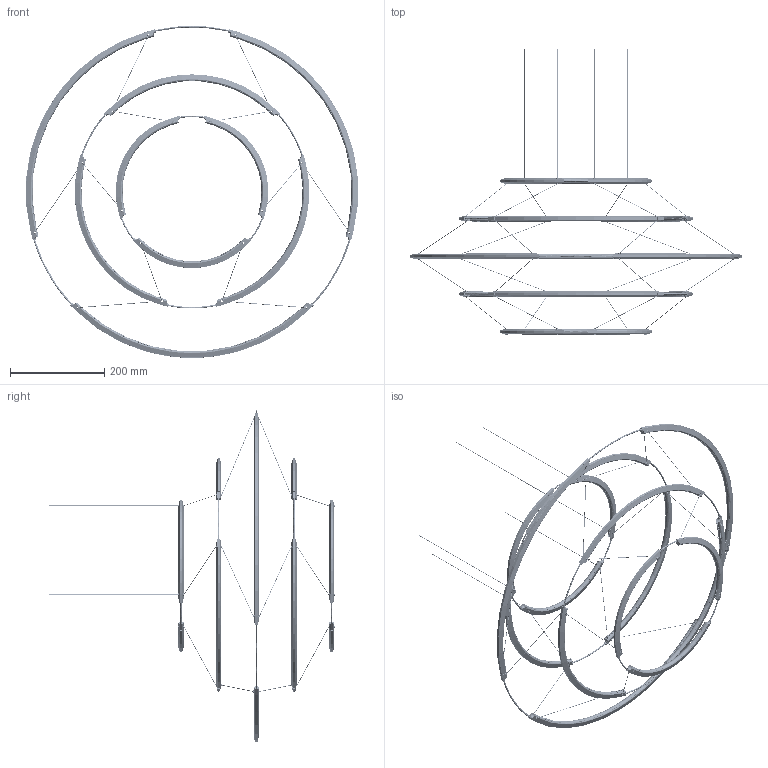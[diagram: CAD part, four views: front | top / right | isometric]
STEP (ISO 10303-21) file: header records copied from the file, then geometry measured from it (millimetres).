
FILE_DESCRIPTION (( 'STEP AP214' ), '1' );
FILE_NAME ('800DRPLNN511.STEP', '2023-06-13T10:42:33', ( '' ), ( '' ), 'SwSTEP 2.0', 'SolidWorks 2016', '' );
FILE_SCHEMA (( 'AUTOMOTIVE_DESIGN' ));
Length unit declared in the file: millimetre
Products named in the file (25): 000_ASS_A DROP_CONNETTORE_-; DRP_PROFILO PLASTICA_GIPLAST13PE59_712; SpecchiaturaParte3^800DRPLNN511; 010DRP000100-500_tondino piegato_500; 052DRP700100-200_END CAP_foro_lamato_-; ASS_TERZO_DROP_300; 093DRP000100_striscia LED DROP A MISURA_500; 093DRP000100_striscia LED DROP A MISURA_300; 093DRP000100_striscia LED DROP A MISURA_700; 000_ASS_A DROP_CONNETTORE_+; 052DRP700100-200_END CAP_foro_lamato_+; piano singolo_300; 010DRP000100-500_tondino piegato_300; 051DRP000100_estruso drop_712; 051DRP000100_estruso drop_312; 800DRPLNN511; 051DRP000100_estruso drop_512; ASS_TERZO_DROP_700; DRP_PROFILO PLASTICA_GIPLAST13PE59_512; DRP_PROFILO PLASTICA_GIPLAST13PE59_312; piano singolo_500; ASS_TERZO_DROP_500; piano singolo_700; Parte3^800DRPLNN511; 010DRP000100-500_tondino piegato_700
Assembly tree (40 placements, depth 5):
  800DRPLNN511
    piano singolo_300  x2
      ASS_TERZO_DROP_300
        051DRP000100_estruso drop_312
        000_ASS_A DROP_CONNETTORE_-
          052DRP700100-200_END CAP_foro_lamato_-
        000_ASS_A DROP_CONNETTORE_+
          052DRP700100-200_END CAP_foro_lamato_+
        093DRP000100_striscia LED DROP A MISURA_300
        DRP_PROFILO PLASTICA_GIPLAST13PE59_312
        010DRP000100-500_tondino piegato_300
    piano singolo_500  x2
      ASS_TERZO_DROP_500
        051DRP000100_estruso drop_512
        000_ASS_A DROP_CONNETTORE_-
          052DRP700100-200_END CAP_foro_lamato_-
        000_ASS_A DROP_CONNETTORE_+
          052DRP700100-200_END CAP_foro_lamato_+
        093DRP000100_striscia LED DROP A MISURA_500
        DRP_PROFILO PLASTICA_GIPLAST13PE59_512
        010DRP000100-500_tondino piegato_500
    piano singolo_700
      ASS_TERZO_DROP_700  x3
        051DRP000100_estruso drop_712
        000_ASS_A DROP_CONNETTORE_-
          052DRP700100-200_END CAP_foro_lamato_-
        000_ASS_A DROP_CONNETTORE_+
          052DRP700100-200_END CAP_foro_lamato_+
        093DRP000100_striscia LED DROP A MISURA_700
        DRP_PROFILO PLASTICA_GIPLAST13PE59_712
        010DRP000100-500_tondino piegato_700
    Parte3^800DRPLNN511  x3
    SpecchiaturaParte3^800DRPLNN511  x3
Bounding box: 704.61 x 606.4 x 704.8 mm (x, y, z)
Volume: 366364.6 mm3; surface area: 605464.6 mm2
Topology: 96 solids, 96 shells, 7314 faces, 19164 edges, 11532 vertices
Faces by surface type: plane 2541, cylinder 2448, bspline 960, torus 630, cone 495, sphere 240
Entity records: 36891 total; most frequent: CARTESIAN_POINT 16486, ORIENTED_EDGE 3880, DIRECTION 3790, EDGE_CURVE 1940, AXIS2_PLACEMENT_3D 1454, VERTEX_POINT 1222, LINE 882, VECTOR 882
